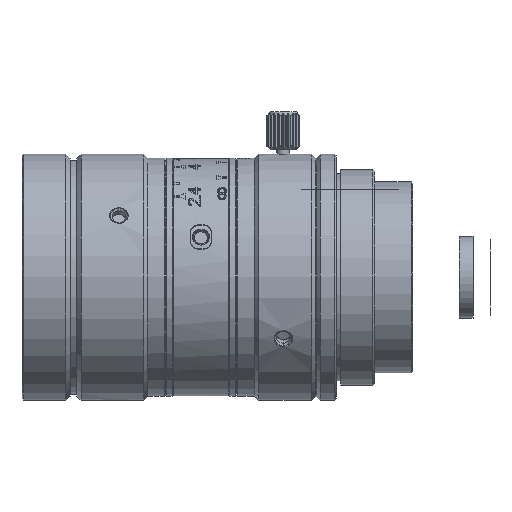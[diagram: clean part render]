
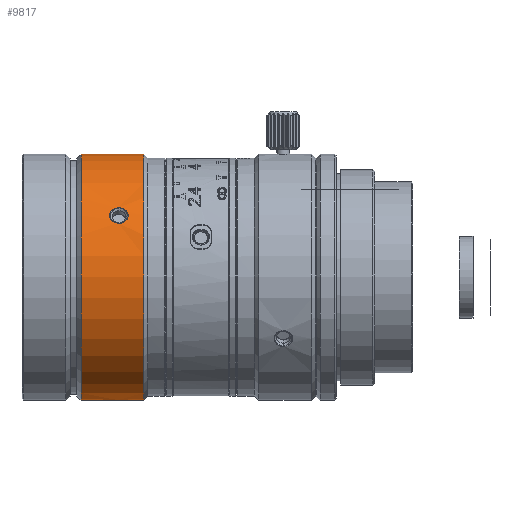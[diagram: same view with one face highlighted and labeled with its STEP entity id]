
A CAD part, top view. The second image highlights one B-rep face of the part: STEP entity #9817.
In plain terms, the highlighted cylindrical face has radius 14.5 mm (diameter 29 mm), a partial arc.
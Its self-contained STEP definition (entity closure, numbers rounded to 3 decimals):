
#4837=CARTESIAN_POINT('',(-40.768,0.,0.));
#4838=DIRECTION('',(-1.,0.,0.));
#4839=DIRECTION('',(0.,-1.,0.));
#4840=AXIS2_PLACEMENT_3D('',#4837,#4838,#4839);
#4861=CARTESIAN_POINT('',(-44.768,-14.5,0.));
#4874=CARTESIAN_POINT('',(-42.568,-14.5,0.));
#4876=DIRECTION('',(-1.,0.,0.));
#4877=VECTOR('',#4876,7.356);
#4878=CARTESIAN_POINT('',(-40.768,14.5,0.));
#4879=LINE('',#4878,#4877);
#4928=CARTESIAN_POINT('',(-42.568,-14.5,0.));
#4929=CARTESIAN_POINT('',(-42.568,-14.5,0.102));
#4930=CARTESIAN_POINT('',(-42.597,-14.498,
0.297));
#4931=CARTESIAN_POINT('',(-42.724,-14.49,
0.57));
#4932=CARTESIAN_POINT('',(-42.915,-14.479,
0.792));
#4933=CARTESIAN_POINT('',(-43.173,-14.468,
0.964));
#4934=CARTESIAN_POINT('',(-43.48,-14.461,
1.061));
#4935=CARTESIAN_POINT('',(-43.81,-14.461,
1.068));
#4936=CARTESIAN_POINT('',(-44.127,-14.467,
0.982));
#4937=CARTESIAN_POINT('',(-44.402,-14.478,
0.81));
#4938=CARTESIAN_POINT('',(-44.608,-14.489,
0.579));
#4939=CARTESIAN_POINT('',(-44.74,-14.498,
0.295));
#4940=CARTESIAN_POINT('',(-44.768,-14.5,0.101));
#4941=CARTESIAN_POINT('',(-44.768,-14.5,0.));
#4943=DIRECTION('',(-1.,0.,0.));
#4944=VECTOR('',#4943,3.356);
#4945=CARTESIAN_POINT('',(-44.768,-14.5,0.));
#4946=LINE('',#4945,#4944);
#4947=DIRECTION('',(-1.,0.,0.));
#4948=VECTOR('',#4947,1.8);
#4949=CARTESIAN_POINT('',(-40.768,-14.5,0.));
#4950=LINE('',#4949,#4948);
#4951=CARTESIAN_POINT('',(-44.768,7.25,12.557));
#4952=CARTESIAN_POINT('',(-44.768,7.164,12.607));
#4953=CARTESIAN_POINT('',(-44.741,6.997,12.701));
#4954=CARTESIAN_POINT('',(-44.611,6.748,12.835));
#4955=CARTESIAN_POINT('',(-44.411,6.545,12.939));
#4956=CARTESIAN_POINT('',(-44.147,6.392,13.015));
#4957=CARTESIAN_POINT('',(-43.835,6.309,13.056));
#4958=CARTESIAN_POINT('',(-43.519,6.307,13.057));
#4959=CARTESIAN_POINT('',(-43.205,6.385,13.019));
#4960=CARTESIAN_POINT('',(-42.934,6.538,12.943));
#4961=CARTESIAN_POINT('',(-42.728,6.743,12.838));
#4962=CARTESIAN_POINT('',(-42.596,6.994,12.703));
#4963=CARTESIAN_POINT('',(-42.568,7.163,12.608));
#4964=CARTESIAN_POINT('',(-42.568,7.25,12.557));
#4966=CARTESIAN_POINT('',(-42.568,7.25,12.557));
#4967=CARTESIAN_POINT('',(-42.568,7.336,12.508));
#4968=CARTESIAN_POINT('',(-42.595,7.502,12.409));
#4969=CARTESIAN_POINT('',(-42.729,7.748,12.258));
#4970=CARTESIAN_POINT('',(-42.937,7.943,12.132));
#4971=CARTESIAN_POINT('',(-43.213,8.085,12.037));
#4972=CARTESIAN_POINT('',(-43.532,8.155,11.989));
#4973=CARTESIAN_POINT('',(-43.845,8.15,11.993));
#4974=CARTESIAN_POINT('',(-44.155,8.072,12.045));
#4975=CARTESIAN_POINT('',(-44.417,7.928,12.141));
#4976=CARTESIAN_POINT('',(-44.613,7.738,12.263));
#4977=CARTESIAN_POINT('',(-44.74,7.502,12.41));
#4978=CARTESIAN_POINT('',(-44.768,7.337,12.507));
#4979=CARTESIAN_POINT('',(-44.768,7.25,12.557));
#4985=CARTESIAN_POINT('',(-48.124,0.,0.));
#4986=DIRECTION('',(1.,0.,0.));
#4987=DIRECTION('',(0.,1.,0.));
#4988=AXIS2_PLACEMENT_3D('',#4985,#4986,#4987);
#7008=VERTEX_POINT('',#4861);
#7009=VERTEX_POINT('',#4874);
#7010=CARTESIAN_POINT('',(-40.768,-14.5,0.));
#7011=VERTEX_POINT('',#7010);
#7012=CARTESIAN_POINT('',(-40.768,14.5,0.));
#7013=VERTEX_POINT('',#7012);
#7014=CARTESIAN_POINT('',(-48.124,14.5,0.));
#7015=VERTEX_POINT('',#7014);
#7016=CARTESIAN_POINT('',(-48.124,-14.5,0.));
#7017=VERTEX_POINT('',#7016);
#7024=VERTEX_POINT('',#4951);
#7025=VERTEX_POINT('',#4964);
#9797=CARTESIAN_POINT('',(-56.033,0.,0.));
#9798=DIRECTION('',(1.,0.,0.));
#9799=DIRECTION('',(0.,-1.,0.));
#9800=AXIS2_PLACEMENT_3D('',#9797,#9798,#9799);
#9801=CYLINDRICAL_SURFACE('',#9800,14.5);
#9802=ORIENTED_EDGE('',*,*,#9789,.T.);
#9803=ORIENTED_EDGE('',*,*,#9757,.T.);
#9805=ORIENTED_EDGE('',*,*,#9804,.F.);
#9806=ORIENTED_EDGE('',*,*,#9753,.F.);
#9807=ORIENTED_EDGE('',*,*,#9722,.F.);
#9808=ORIENTED_EDGE('',*,*,#9750,.T.);
#9809=EDGE_LOOP('',(#9802,#9803,#9805,#9806,#9807,#9808));
#9810=FACE_OUTER_BOUND('',#9809,.F.);
#9812=ORIENTED_EDGE('',*,*,#9811,.T.);
#9814=ORIENTED_EDGE('',*,*,#9813,.T.);
#9815=EDGE_LOOP('',(#9812,#9814));
#9816=FACE_BOUND('',#9815,.F.);
#9817=ADVANCED_FACE('',(#9810,#9816),#9801,.T.);
#4841=CIRCLE('',#4840,14.5);
#4942=B_SPLINE_CURVE_WITH_KNOTS('',3,(#4928,#4929,#4930,#4931,#4932,#4933,#4934,
#4935,#4936,#4937,#4938,#4939,#4940,#4941),.UNSPECIFIED.,.F.,.F.,(4,1,1,1,1,1,1,
1,1,1,1,4),(0.,0.091,0.182,0.273,
0.364,0.455,0.545,0.636,
0.727,0.818,0.909,1.),.UNSPECIFIED.);
#4965=B_SPLINE_CURVE_WITH_KNOTS('',3,(#4951,#4952,#4953,#4954,#4955,#4956,#4957,
#4958,#4959,#4960,#4961,#4962,#4963,#4964),.UNSPECIFIED.,.F.,.F.,(4,1,1,1,1,1,1,
1,1,1,1,4),(0.,0.091,0.182,0.273,
0.364,0.455,0.545,0.636,
0.727,0.818,0.909,1.),.UNSPECIFIED.);
#4980=B_SPLINE_CURVE_WITH_KNOTS('',3,(#4966,#4967,#4968,#4969,#4970,#4971,#4972,
#4973,#4974,#4975,#4976,#4977,#4978,#4979),.UNSPECIFIED.,.F.,.F.,(4,1,1,1,1,1,1,
1,1,1,1,4),(0.,0.091,0.182,0.273,
0.364,0.455,0.545,0.636,
0.727,0.818,0.909,1.),.UNSPECIFIED.);
#4989=CIRCLE('',#4988,14.5);
#9722=EDGE_CURVE('',#7011,#7013,#4841,.T.);
#9750=EDGE_CURVE('',#7011,#7009,#4950,.T.);
#9753=EDGE_CURVE('',#7013,#7015,#4879,.T.);
#9757=EDGE_CURVE('',#7008,#7017,#4946,.T.);
#9789=EDGE_CURVE('',#7009,#7008,#4942,.T.);
#9804=EDGE_CURVE('',#7015,#7017,#4989,.T.);
#9811=EDGE_CURVE('',#7024,#7025,#4965,.T.);
#9813=EDGE_CURVE('',#7025,#7024,#4980,.T.);
